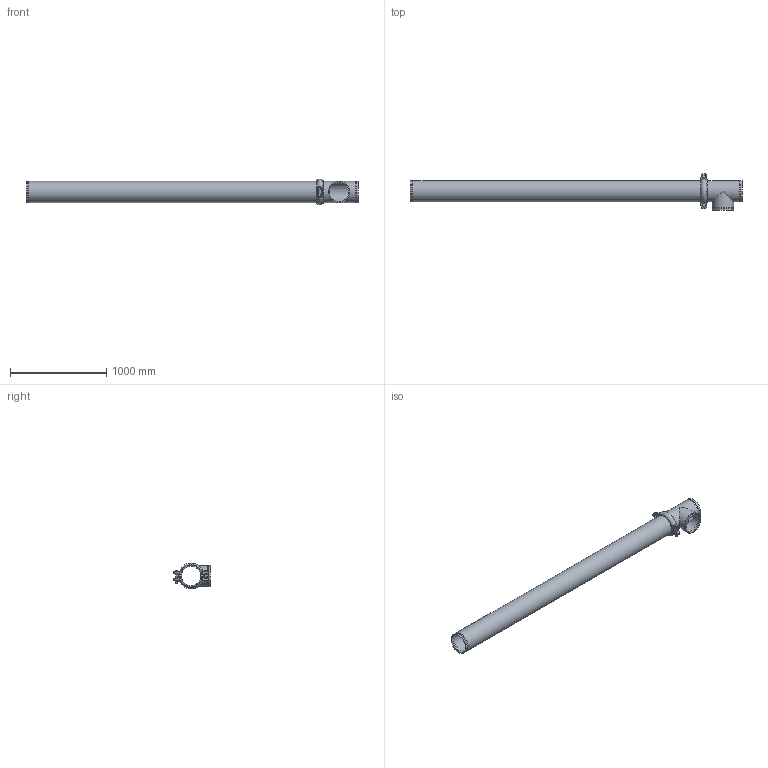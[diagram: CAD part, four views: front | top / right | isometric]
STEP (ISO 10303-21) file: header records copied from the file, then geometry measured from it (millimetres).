
FILE_DESCRIPTION(/* description */ ('VIC LONG RUN FITTING No R15 (OGS)','CAx-IF Rec.Pracs.---Representation and Presentation of Product Manufacturing Information (PMI)---4.0---2014-10-13'),/* implementation_level */ '2;1');
FILE_NAME(/* name */ 'C:\Users\Vjadhav\AppData\Roaming\Autodesk\ApplicationPlugins\Back Up\Victaulic_IPS_Long Run Fittings_No R15 (OGS)\Victaulic_IPS_Long Run Fittings_No R15 (OGS)_8 (200).stp',/* time_stamp */ '2020-10-06T19:04:15+06:00',/* author */ ('Vjadhav'),/* organization */ ('Victaulic'),/* preprocessor_version */ 'ST-DEVELOPER v17.2',/* originating_system */ 'Autodesk Inventor 2019',/* authorisation */ '');
FILE_SCHEMA (('AP242_MANAGED_MODEL_BASED_3D_ENGINEERING_MIM_LF { 1 0 10303 442 1 1 4 }'));
Length unit declared in the file: inch
Products named in the file (4): R15-08.0; 020-08.0; 107N-08.0; Pipe_R13-08.0
Assembly tree (3 placements, depth 2):
  R15-08.0
    020-08.0
    107N-08.0
    Pipe_R13-08.0
Bounding box: 3446.78 x 377.82 x 266.7 mm (x, y, z)
Volume: 20201804.8 mm3; surface area: 4865627.8 mm2
Topology: 3 solids, 3 shells, 154 faces, 401 edges, 272 vertices
Faces by surface type: plane 65, cylinder 61, bspline 16, torus 6, cone 4, sphere 2
Full cylindrical faces by diameter (mm): 19.05 x4, 32.537 x2, 202.717 x3, 206.375 x1, 214.401 x5, 219.075 x10
Entity records: 5755 total; most frequent: CARTESIAN_POINT 1518, DIRECTION 859, ORIENTED_EDGE 802, EDGE_CURVE 401, AXIS2_PLACEMENT_3D 341, VERTEX_POINT 272, EDGE_LOOP 185, LINE 177
